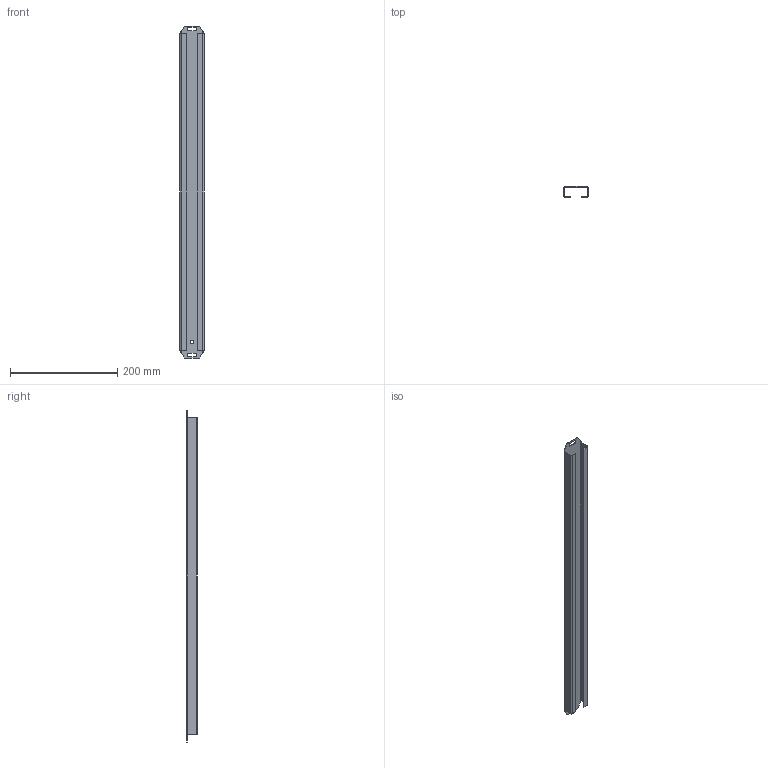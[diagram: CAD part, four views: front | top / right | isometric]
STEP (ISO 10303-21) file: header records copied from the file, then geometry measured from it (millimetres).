
FILE_DESCRIPTION (( 'STEP AP203' ), '1' );
FILE_NAME ('PKV 80 B Ïàíåëü ñòàöèîíàðíàÿ.STEP', '2022-08-24T12:59:49', ( '' ), ( '' ), 'SwSTEP 2.0', 'SolidWorks 2018', '' );
FILE_SCHEMA (( 'CONFIG_CONTROL_DESIGN' ));
Length unit declared in the file: millimetre
Products named in the file (1): PKV 80 B Ïàíåëü ñòàöèîíàðíàÿ
Bounding box: 45 x 20.5 x 620.5 mm (x, y, z)
Volume: 73053.1 mm3; surface area: 123586.2 mm2
Topology: 1 solids, 1 shells, 52 faces, 118 edges, 68 vertices
Faces by surface type: plane 34, cylinder 14, bspline 4
Entity records: 1615 total; most frequent: CARTESIAN_POINT 403, ORIENTED_EDGE 236, DIRECTION 220, EDGE_CURVE 118, VECTOR 82, LINE 82, AXIS2_PLACEMENT_3D 69, VERTEX_POINT 68
